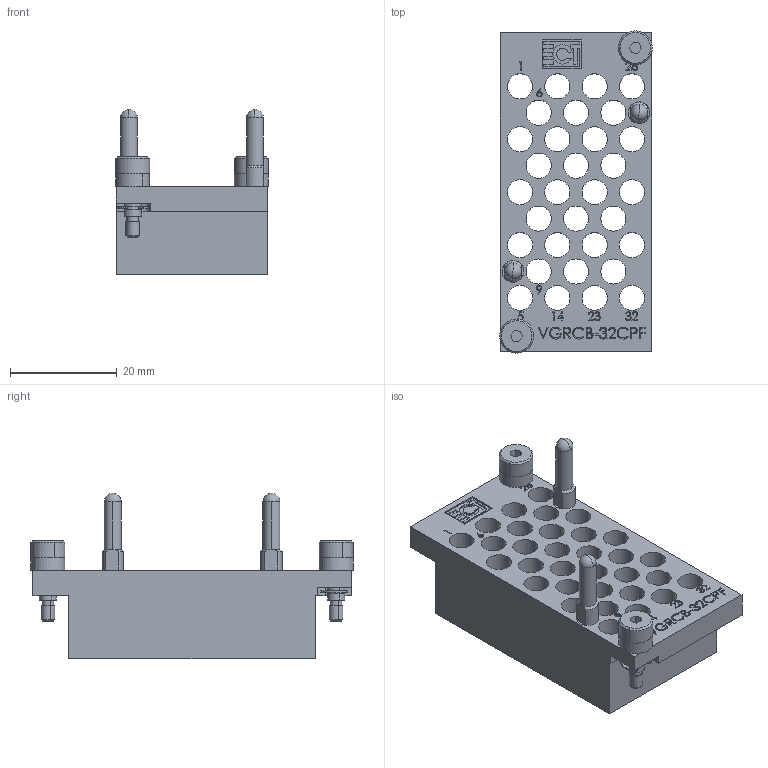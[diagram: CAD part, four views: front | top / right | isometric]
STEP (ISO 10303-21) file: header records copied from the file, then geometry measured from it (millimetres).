
FILE_DESCRIPTION (( 'STEP AP214' ), '1' );
FILE_NAME ('906_DA.STEP', '2017-04-13T17:35:39', ( '' ), ( '' ), 'SwSTEP 2.0', 'SolidWorks 2014', '' );
FILE_SCHEMA (( 'AUTOMOTIVE_DESIGN' ));
Length unit declared in the file: millimetre
Products named in the file (6): E-TYPE-RETAINING (INCH)_0.125" (VG); 923067; 29675a1_#4-40"; a32502; b32507; 906_DA
Assembly tree (9 placements, depth 2):
  906_DA
    b32507
    a32502  x2
    29675a1_#4-40"  x2
    923067  x2
    E-TYPE-RETAINING (INCH)_0.125" (VG)  x2
Bounding box: 28.57 x 60.32 x 30.99 mm (x, y, z)
Volume: 14312.1 mm3; surface area: 14729.9 mm2
Topology: 9 solids, 9 shells, 859 faces, 2203 edges, 1460 vertices
Faces by surface type: plane 382, bspline 245, cylinder 212, cone 16, sphere 4
Entity records: 43629 total; most frequent: CARTESIAN_POINT 19483, ORIENTED_EDGE 4062, DIRECTION 3009, EDGE_CURVE 2031, VERTEX_POINT 1351, VECTOR 1167, LINE 1167, EDGE_LOOP 952
